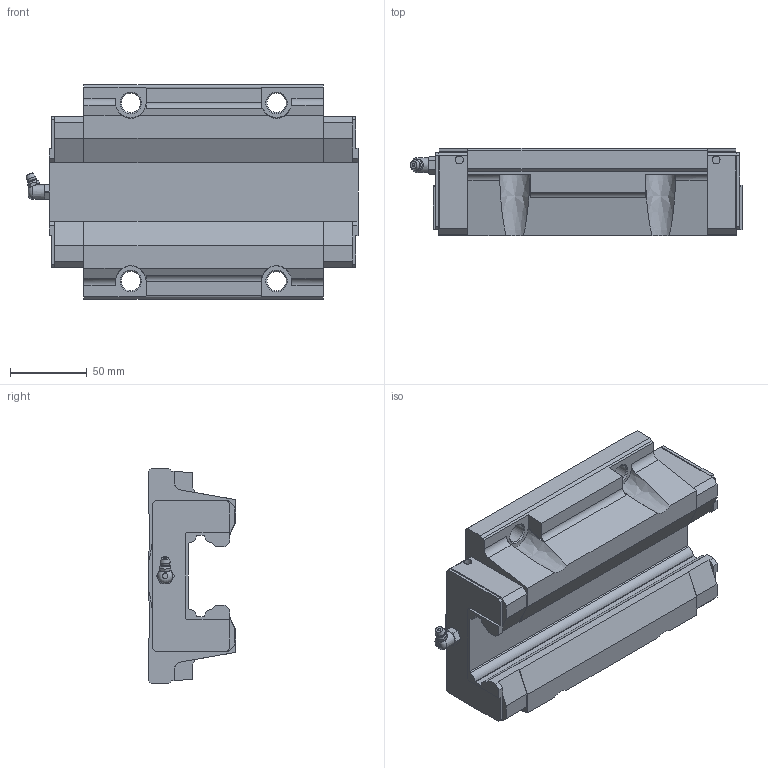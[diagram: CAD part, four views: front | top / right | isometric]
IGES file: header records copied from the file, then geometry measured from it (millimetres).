
Start section: Data from Parasolid IGES Translator 26.0.171, Copyright(c) 2006 Siemens PLM Software. All Rights Reserved.
Global section: file name: HSR55LC1SS(GK) BLOCK(1B-PT1_8).igs; native system: By Siemens PLM Incorporated; preprocessor: XPlus GENERIC/IGES 26.0.171; author: Noname; organization: Noname; date: 20240521.045912; units: millimetre
Bounding box: 216.3 x 57 x 140 mm (x, y, z)
Surface area: 101247.4 mm2 (no closed solid volume)
Topology: 0 solids, 0 shells, 226 faces, 1261 edges, 1246 vertices
Faces by surface type: extrusion 165, revolution 61
